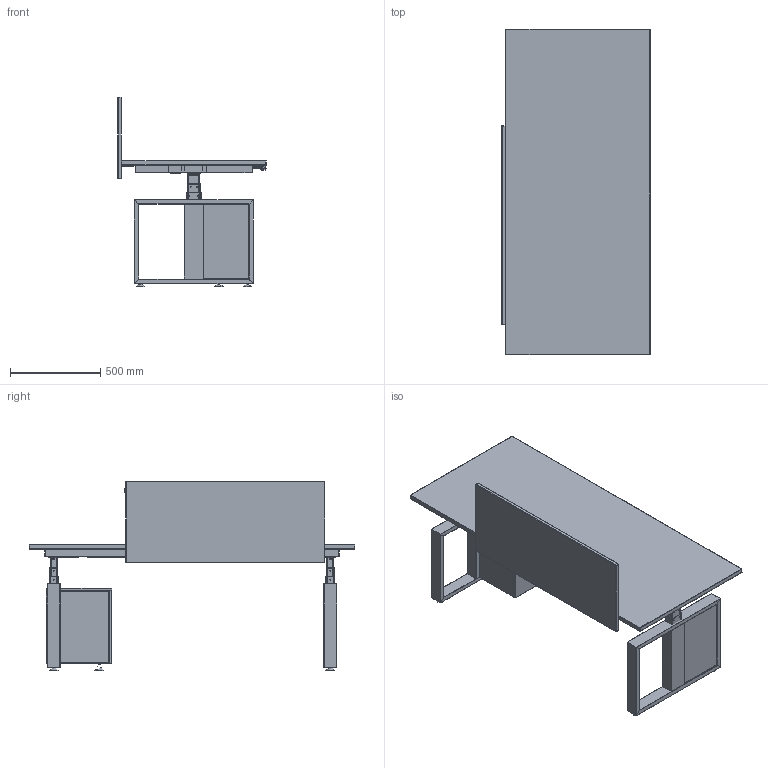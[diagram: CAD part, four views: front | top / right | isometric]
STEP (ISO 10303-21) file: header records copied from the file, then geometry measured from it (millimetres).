
FILE_DESCRIPTION ((), '1');
FILE_NAME ('C:\D\DESING\TABLE DESK PROJECT\MODESK WEB\3D MODELY KE STAZENI\DESIGNER\MODESK_DESIGNER_1800 + SKRINKA P.stp', '2019-08-02T13:37:51', ('Unknown'), ('Unknown'), 'HarmonyWare STEP v1.4.3', 'HarmonyWare Translators', '');
FILE_SCHEMA (('CONFIG_CONTROL_DESIGN'));
Length unit declared in the file: millimetre
Products named in the file (122): MODESK_DESIGNER_1800 + SKRINKA P
Bounding box: 820 x 1800 x 1047.05 mm (x, y, z)
Volume: 50472370.8 mm3; surface area: 11151613.3 mm2
Topology: 76 solids, 122 shells, 5652 faces, 15129 edges, 9597 vertices
Faces by surface type: bspline 5652
Entity records: 283784 total; most frequent: CARTESIAN_POINT 187320, ORIENTED_EDGE 29040, EDGE_CURVE 14874, B_SPLINE_CURVE_WITH_KNOTS 9724, VERTEX_POINT 9608, EDGE_LOOP 6123, FACE_OUTER_BOUND 5652, ADVANCED_FACE 5652
